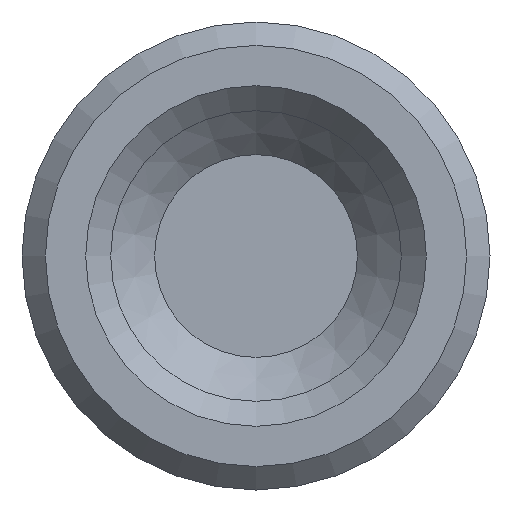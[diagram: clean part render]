
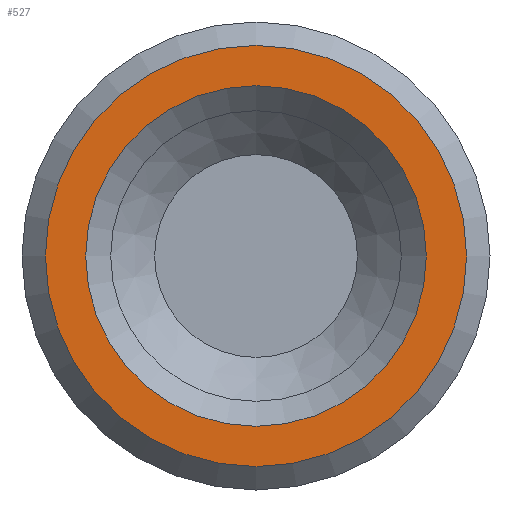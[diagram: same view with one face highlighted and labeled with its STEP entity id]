
A CAD part, left-side view. The second image highlights one B-rep face of the part: STEP entity #527.
In plain terms, the highlighted planar face has unit normal (-1, 0, 0).
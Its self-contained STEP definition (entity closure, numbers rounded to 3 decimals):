
#473=CARTESIAN_POINT('',(0.,-0.,-13.5));
#474=VERTEX_POINT('',#473);
#481=CARTESIAN_POINT('',(0.,0.,0.));
#482=DIRECTION('',(1.,0.,0.));
#483=DIRECTION('',(0.,0.,-1.));
#484=AXIS2_PLACEMENT_3D('',#481,#482,#483);
#485=CIRCLE('',#484,13.5);
#486=EDGE_CURVE('',#474,#474,#485,.T.);
#499=CARTESIAN_POINT('',(0.,0.,13.5));
#500=DIRECTION('',(-1.,0.,0.));
#501=DIRECTION('',(0.,0.,1.));
#502=AXIS2_PLACEMENT_3D('',#499,#500,#501);
#503=PLANE('',#502);
#504=CARTESIAN_POINT('',(0.,-0.,-10.916));
#505=VERTEX_POINT('',#504);
#506=CARTESIAN_POINT('',(0.,0.,10.916));
#507=VERTEX_POINT('',#506);
#508=CARTESIAN_POINT('',(0.,0.,0.));
#509=DIRECTION('',(1.,0.,0.));
#510=DIRECTION('',(0.,0.,-1.));
#511=AXIS2_PLACEMENT_3D('',#508,#509,#510);
#512=CIRCLE('',#511,10.916);
#513=EDGE_CURVE('',#505,#507,#512,.T.);
#514=ORIENTED_EDGE('',*,*,#513,.T.);
#515=CARTESIAN_POINT('',(0.,0.,0.));
#516=DIRECTION('',(1.,0.,0.));
#517=DIRECTION('',(0.,0.,-1.));
#518=AXIS2_PLACEMENT_3D('',#515,#516,#517);
#519=CIRCLE('',#518,10.916);
#520=EDGE_CURVE('',#507,#505,#519,.T.);
#521=ORIENTED_EDGE('',*,*,#520,.T.);
#522=EDGE_LOOP('',(#514,#521));
#523=FACE_BOUND('',#522,.T.);
#524=ORIENTED_EDGE('',*,*,#486,.F.);
#525=EDGE_LOOP('',(#524));
#526=FACE_BOUND('',#525,.T.);
#527=ADVANCED_FACE('',(#523,#526),#503,.T.);
